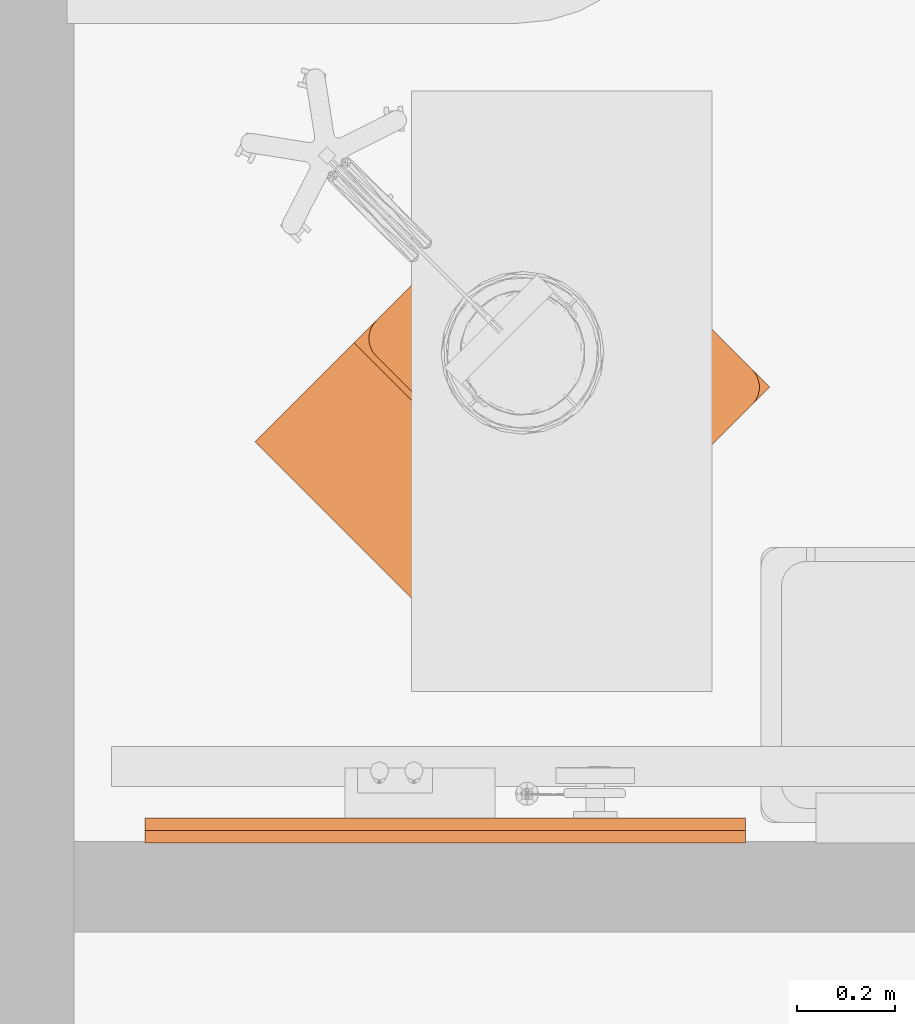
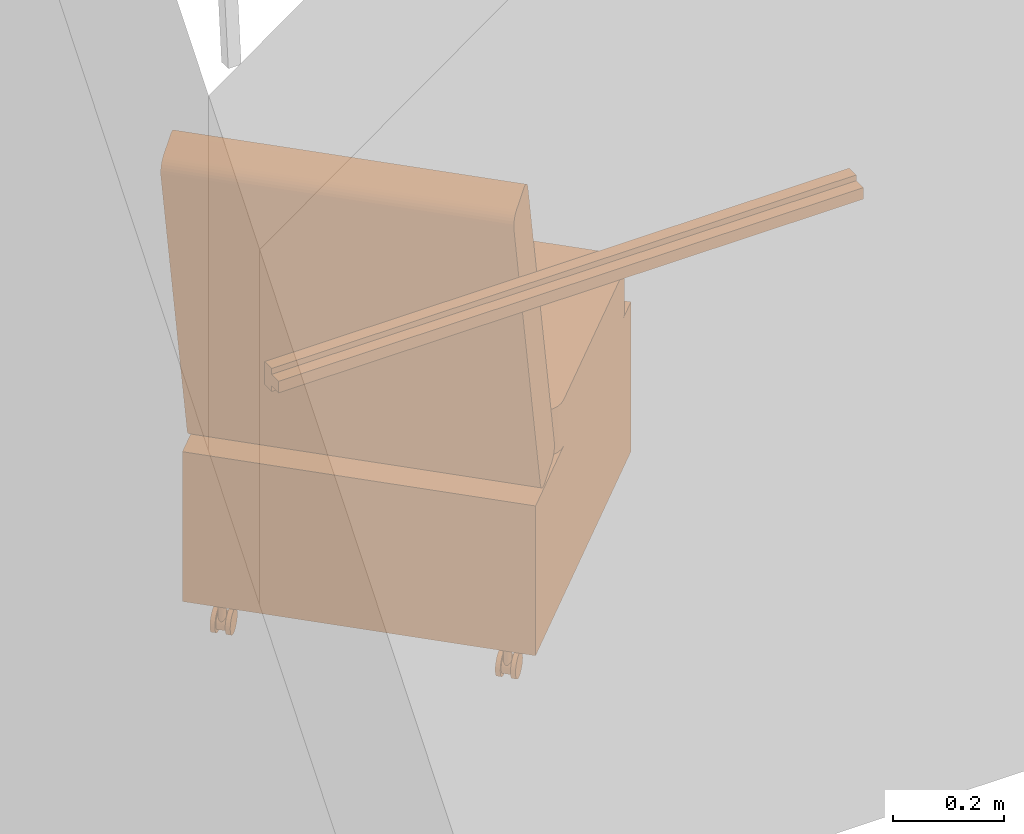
# One storey, part 46 of 142: 2 proxies.
"""IFC2X3 building model written with IfcOpenShell, lengths in feet."""

from ifc_helpers import new_model, entity, si_unit, converted_unit, derived_unit, direction, frame, frame_2d, origin, origin_2d_with_axis, place, context, subcontext, project, spatial, polyline, circle_curve, parameter, trimmed, segment, composite_curve, rectangle, circle, outline, extrude, source, transform, mapped, type_object, type_shapes, element, save


model = new_model("IFC2X3")

# Units and contexts
model_context = context("Model", 3, precision=0.0001, world=origin(), true_north=direction((6.12303176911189e-17, 1.0)))
body_context = subcontext(model_context, "Body", "Model", "MODEL_VIEW")
ifc_project = project(units=[converted_unit("LENGTHUNIT", "FOOT", entity("IfcRatioMeasure", 0.3048), si_unit("LENGTHUNIT", "METRE"), dimensions=[1, 0, 0, 0, 0, 0, 0]), converted_unit("AREAUNIT", "SQUARE FOOT", entity("IfcRatioMeasure", 0.09290304), si_unit("AREAUNIT", "SQUARE_METRE"), dimensions=[2, 0, 0, 0, 0, 0, 0]), converted_unit("VOLUMEUNIT", "CUBIC FOOT", entity("IfcRatioMeasure", 0.028316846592), si_unit("VOLUMEUNIT", "CUBIC_METRE"), dimensions=[3, 0, 0, 0, 0, 0, 0]), converted_unit("PLANEANGLEUNIT", "DEGREE", entity("IfcRatioMeasure", 0.0174532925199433), si_unit("PLANEANGLEUNIT", "RADIAN"), dimensions=[0, 0, 0, 0, 0, 0, 0]), si_unit("MASSUNIT", "GRAM", prefix="KILO"), derived_unit("MASSDENSITYUNIT", [(si_unit("MASSUNIT", "GRAM", prefix="KILO"), 1), (si_unit("LENGTHUNIT", "METRE"), -3)]), si_unit("TIMEUNIT", "SECOND"), si_unit("FREQUENCYUNIT", "HERTZ"), si_unit("THERMODYNAMICTEMPERATUREUNIT", "DEGREE_CELSIUS"), derived_unit("THERMALTRANSMITTANCEUNIT", [(si_unit("MASSUNIT", "GRAM", prefix="KILO"), 1), (si_unit("THERMODYNAMICTEMPERATUREUNIT", "KELVIN"), -1), (si_unit("TIMEUNIT", "SECOND"), -3)]), derived_unit("VOLUMETRICFLOWRATEUNIT", [(si_unit("LENGTHUNIT", "METRE"), 3), (si_unit("TIMEUNIT", "SECOND"), -1)]), si_unit("ELECTRICCURRENTUNIT", "AMPERE"), si_unit("ELECTRICVOLTAGEUNIT", "VOLT"), si_unit("POWERUNIT", "WATT"), si_unit("FORCEUNIT", "NEWTON"), si_unit("ILLUMINANCEUNIT", "LUX"), si_unit("LUMINOUSFLUXUNIT", "LUMEN"), si_unit("LUMINOUSINTENSITYUNIT", "CANDELA"), derived_unit("USERDEFINED", [(si_unit("MASSUNIT", "GRAM", prefix="KILO"), -1), (si_unit("LENGTHUNIT", "METRE"), -2), (si_unit("TIMEUNIT", "SECOND"), 3), (si_unit("LUMINOUSFLUXUNIT", "LUMEN"), 1)]), derived_unit("LINEARVELOCITYUNIT", [(si_unit("LENGTHUNIT", "METRE"), 1), (si_unit("TIMEUNIT", "SECOND"), -1)]), si_unit("PRESSUREUNIT", "PASCAL"), derived_unit("USERDEFINED", [(si_unit("LENGTHUNIT", "METRE"), -2), (si_unit("MASSUNIT", "GRAM", prefix="KILO"), 1), (si_unit("TIMEUNIT", "SECOND"), -2)])], contexts=[model_context])

# Site, building, storey, space
site_placement = place(None, origin())
site = spatial("IfcSite", under=ifc_project, at=site_placement, Name="Default", CompositionType="ELEMENT")
building_placement = place(site_placement, origin())
building = spatial("IfcBuilding", under=site, at=building_placement, Name="OUTPATIENT / PACT CLINIC (Ch. 265)", CompositionType="ELEMENT")
storey_placement = place(building_placement, origin())
storey = spatial("IfcBuildingStorey", under=building, at=storey_placement, Name="LEVEL 1", CompositionType="ELEMENT", Elevation=0.0)
space_placement = place(storey_placement, origin())
space = spatial("IfcSpace", under=storey, at=space_placement, Name="EXPA01", CompositionType="ELEMENT", InteriorOrExteriorSpace="INTERNAL")

# Proxies
building_element_proxy_type_1 = type_object("IfcBuildingElementProxyType", Name="Exam/Treatment Table with Cabinet", PredefinedType="NOTDEFINED")
shared_shape_1 = source(origin(), body_context, "Body", "SweptSolid", [
    extrude(circle(Radius=0.0833333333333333, at=frame_2d((0.0, -1.38777878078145e-16), x_axis=(1.0, 0.0))), frame((-0.843750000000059, 0.432291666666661, 0.0833333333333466), z_axis=(1.0, 0.0, 0.0), x_axis=(0.0, 1.0, 0.0)), (0.0, 0.0, 1.0), 0.0312500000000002),
    extrude(circle(Radius=0.0260416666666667, at=frame_2d((0.0, -5.55111512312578e-17), x_axis=(1.0, 0.0))), frame((-0.87500000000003, 0.463541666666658, 0.0801325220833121), z_axis=(0.0, 0.0, 1.0), x_axis=(-1.0, 0.0, 0.0)), (0.0, 0.0, 1.0), 0.211534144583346),
    extrude(circle(Radius=0.0625, at=frame_2d((0.0, -2.77555756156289e-16), x_axis=(1.0, 0.0))), frame((-0.90625000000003, 0.432291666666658, 0.0833333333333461), z_axis=(1.0, 0.0, 0.0), x_axis=(0.0, -1.0, 0.0)), (0.0, 0.0, 1.0), 0.0625),
    extrude(circle(Radius=0.0833333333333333, at=frame_2d((0.0, -1.38777878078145e-16), x_axis=(1.0, 0.0))), frame((-0.93750000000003, 0.432291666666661, 0.0833333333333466), z_axis=(1.0, 0.0, 0.0), x_axis=(0.0, 1.0, 0.0)), (0.0, 0.0, 1.0), 0.0312500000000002),
    extrude(circle(Radius=0.0833333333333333, at=frame_2d((0.0, -3.7470027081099e-16), x_axis=(1.0, 0.0))), frame((0.81250000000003, 0.432291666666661, 0.083333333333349), z_axis=(1.0, 0.0, 0.0), x_axis=(0.0, 1.0, 0.0)), (0.0, 0.0, 1.0), 0.0312500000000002),
    extrude(circle(Radius=0.0260416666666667, at=frame_2d((0.0, -5.55111512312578e-17), x_axis=(1.0, 0.0))), frame((0.875000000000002, 0.463541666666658, 0.0801325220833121)), (0.0, 0.0, 1.0), 0.211534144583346),
    extrude(circle(Radius=0.0625, at=frame_2d((0.0, -1.11022302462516e-16), x_axis=(1.0, 0.0))), frame((0.843750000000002, 0.432291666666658, 0.0833333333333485), z_axis=(1.0, 0.0, 0.0), x_axis=(0.0, -1.0, 0.0)), (0.0, 0.0, 1.0), 0.0625),
    extrude(circle(Radius=0.0833333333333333, at=frame_2d((0.0, -3.7470027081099e-16), x_axis=(1.0, 0.0))), frame((0.906250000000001, 0.432291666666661, 0.083333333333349), z_axis=(1.0, 0.0, 0.0), x_axis=(0.0, 1.0, 0.0)), (0.0, 0.0, 1.0), 0.0312500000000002),
    extrude(circle(Radius=0.0833333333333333, at=frame_2d((0.0, -1.38777878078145e-16), x_axis=(1.0, 0.0))), frame((-0.843750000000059, -1.41145833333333, 0.0833333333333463), z_axis=(1.0, 0.0, 0.0), x_axis=(0.0, -1.0, 0.0)), (0.0, 0.0, 1.0), 0.0312500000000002),
    extrude(circle(Radius=0.0260416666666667, at=origin_2d_with_axis()), frame((-0.87500000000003, -1.44270833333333, 0.0801325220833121), z_axis=(0.0, 0.0, 1.0), x_axis=(-1.0, 0.0, 0.0)), (0.0, 0.0, 1.0), 0.211534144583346),
    extrude(circle(Radius=0.0625, at=frame_2d((0.0, -2.77555756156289e-16), x_axis=(1.0, 0.0))), frame((-0.90625000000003, -1.41145833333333, 0.0833333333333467), z_axis=(1.0, 0.0, 0.0), x_axis=(0.0, 1.0, 0.0)), (0.0, 0.0, 1.0), 0.0625),
    extrude(circle(Radius=0.0833333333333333, at=frame_2d((0.0, -1.38777878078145e-16), x_axis=(1.0, 0.0))), frame((-0.93750000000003, -1.41145833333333, 0.0833333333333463), z_axis=(1.0, 0.0, 0.0), x_axis=(0.0, -1.0, 0.0)), (0.0, 0.0, 1.0), 0.0312500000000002),
    extrude(circle(Radius=0.0833333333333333, at=frame_2d((0.0, -3.7470027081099e-16), x_axis=(1.0, 0.0))), frame((0.81250000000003, -1.41145833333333, 0.0833333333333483), z_axis=(1.0, 0.0, 0.0), x_axis=(0.0, -1.0, 0.0)), (0.0, 0.0, 1.0), 0.0312500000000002),
    extrude(circle(Radius=0.0260416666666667, at=origin_2d_with_axis()), frame((0.875000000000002, -1.44270833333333, 0.0801325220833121)), (0.0, 0.0, 1.0), 0.211534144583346),
    extrude(circle(Radius=0.0625, at=frame_2d((0.0, -1.11022302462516e-16), x_axis=(1.0, 0.0))), frame((0.843750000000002, -1.41145833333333, 0.0833333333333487), z_axis=(1.0, 0.0, 0.0), x_axis=(0.0, 1.0, 0.0)), (0.0, 0.0, 1.0), 0.0625),
    extrude(circle(Radius=0.0833333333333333, at=frame_2d((0.0, -3.7470027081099e-16), x_axis=(1.0, 0.0))), frame((0.906250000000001, -1.41145833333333, 0.0833333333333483), z_axis=(1.0, 0.0, 0.0), x_axis=(0.0, -1.0, 0.0)), (0.0, 0.0, 1.0), 0.0312500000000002),
    extrude(rectangle(XDim=2.1666666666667, YDim=2.18316882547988, at=origin_2d_with_axis()), frame((0.0, -0.491748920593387, 0.291666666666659), z_axis=(0.0, 0.0, 1.0), x_axis=(-1.0, 0.0, 0.0)), (0.0, 0.0, 1.0), 1.08333333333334),
    extrude(outline(composite_curve([segment(trimmed(circle_curve(frame_2d((-0.221258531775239, -1.14772335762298), x_axis=(1.0, 0.0)), 0.0833333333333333), [parameter(255.0)], [parameter(345.0)], True, "PARAMETER"), True, "CONTINUOUS"), segment(polyline([(-0.140764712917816, -1.16929161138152), (0.462739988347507, 1.08301859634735)]), True, "CONTINUOUS"), segment(trimmed(circle_curve(frame_2d((0.382246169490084, 1.10458685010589), x_axis=(1.0, 0.0)), 0.0833333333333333), [parameter(345.000000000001)], [parameter(75.0000000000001)], True, "PARAMETER"), True, "CONTINUOUS"), segment(polyline([(0.403814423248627, 1.18508066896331), (0.242826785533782, 1.2282171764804)]), True, "CONTINUOUS"), segment(trimmed(circle_curve(frame_2d((0.221258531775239, 1.14772335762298), x_axis=(1.0, 0.0)), 0.0833333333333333), [parameter(74.9999999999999)], [parameter(165.0)], True, "PARAMETER"), True, "CONTINUOUS"), segment(polyline([(0.140764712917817, 1.16929161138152), (-0.462739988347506, -1.08301859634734)]), True, "CONTINUOUS"), segment(trimmed(circle_curve(frame_2d((-0.382246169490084, -1.10458685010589), x_axis=(1.0, 0.0)), 0.0833333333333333), [parameter(165.0)], [parameter(255.0)], True, "PARAMETER"), True, "CONTINUOUS"), segment(polyline([(-0.403814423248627, -1.18508066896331), (-0.242826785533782, -1.2282171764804)]), True, "CONTINUOUS")], self_intersect=False)), frame((-1.08333333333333, 0.632933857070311, 2.62668441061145), z_axis=(1.0, 0.0, 0.0), x_axis=(0.0, 1.0, 0.0)), (0.0, 0.0, 1.0), 2.16666666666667),
    extrude(outline(composite_curve([segment(polyline([(-0.916666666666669, -0.854166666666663), (0.91666666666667, -0.854166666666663)]), True, "CONTINUOUS"), segment(trimmed(circle_curve(frame_2d((0.916666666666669, -0.687499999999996), x_axis=(-1.0, 0.0)), 0.166666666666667), [parameter(90.0000000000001)], [parameter(180.0)], True, "PARAMETER"), True, "CONTINUOUS"), segment(polyline([(1.08333333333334, -0.687499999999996), (1.08333333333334, 0.687499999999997)]), True, "CONTINUOUS"), segment(trimmed(circle_curve(frame_2d((0.916666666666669, 0.687499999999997), x_axis=(-1.0, 0.0)), 0.166666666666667), [parameter(180.0)], [parameter(270.0)], True, "PARAMETER"), True, "CONTINUOUS"), segment(polyline([(0.916666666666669, 0.854166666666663), (-0.91666666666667, 0.854166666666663)]), True, "CONTINUOUS"), segment(trimmed(circle_curve(frame_2d((-0.916666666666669, 0.687499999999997), x_axis=(-1.0, 0.0)), 0.166666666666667), [parameter(270.0)], [parameter(0.0)], True, "PARAMETER"), True, "CONTINUOUS"), segment(polyline([(-1.08333333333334, 0.687499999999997), (-1.08333333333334, -0.687499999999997)]), True, "CONTINUOUS"), segment(trimmed(circle_curve(frame_2d((-0.916666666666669, -0.687499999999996), x_axis=(-1.0, 0.0)), 0.166666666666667), [parameter(0.0)], [parameter(90.0000000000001)], True, "PARAMETER"), True, "CONTINUOUS")], self_intersect=False)), frame((0.0, -0.729166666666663, 1.375), z_axis=(0.0, 0.0, 1.0), x_axis=(-1.0, 0.0, 0.0)), (0.0, 0.0, 1.0), 0.333333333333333),
])
type_shapes(building_element_proxy_type_1, [shared_shape_1])
proxy_1_placement = place(space_placement, frame((393.714225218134, -894.351895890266, 0.0260416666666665), z_axis=(0.0, 0.0, 1.0), x_axis=(-0.707106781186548, 0.707106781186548, 0.0)))
element("IfcBuildingElementProxy", 1, at=proxy_1_placement, inside=space, type_object=building_element_proxy_type_1, Name="M9025 - Exam Table1:Exam/Treatment Table with Cabinet", ObjectType="Exam/Treatment Table with Cabinet", context=body_context, shape_type="MappedRepresentation", body=[
    mapped(shared_shape_1, transform((0.0, 0.0, 0.0), scale=1.0)),
])
building_element_proxy_type_2 = type_object("IfcBuildingElementProxyType", Name="A1132 - Rail, Accessory Mounting", PredefinedType="NOTDEFINED")
shared_shape_2 = source(origin(), body_context, "Body", "SweptSolid", [
    extrude(outline(polyline([(0.0416666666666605, 0.0), (0.0833333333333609, 0.0), (0.083333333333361, 0.0833333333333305), (-0.0833333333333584, 0.0833333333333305), (-0.0833333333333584, 0.0), (-0.0416666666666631, 0.0), (-0.0416666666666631, -0.0833333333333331), (0.0416666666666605, -0.0833333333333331), (0.0416666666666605, 0.0)])), frame((-2.0, -0.0833333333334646, 0.0833333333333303), z_axis=(1.0, 0.0, 0.0), x_axis=(0.0, 0.0, 1.0)), (0.0, 0.0, 1.0), 4.0),
])
type_shapes(building_element_proxy_type_2, [shared_shape_2])
proxy_2_placement = place(space_placement, frame((393.437268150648, -897.03443102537, 4.0), z_axis=(0.0, 0.0, 1.0), x_axis=(-1.0, 0.0, 0.0)))
element("IfcBuildingElementProxy", 2, at=proxy_2_placement, inside=space, type_object=building_element_proxy_type_2, Name="A1132 - Rail, Accessory Mounting:A1132 - Rail, Accessory Mounting", ObjectType="A1132 - Rail, Accessory Mounting", context=body_context, shape_type="MappedRepresentation", body=[
    mapped(shared_shape_2, transform((0.0, 0.0, 0.0), scale=1.0)),
])

save(model, "model.ifc")
